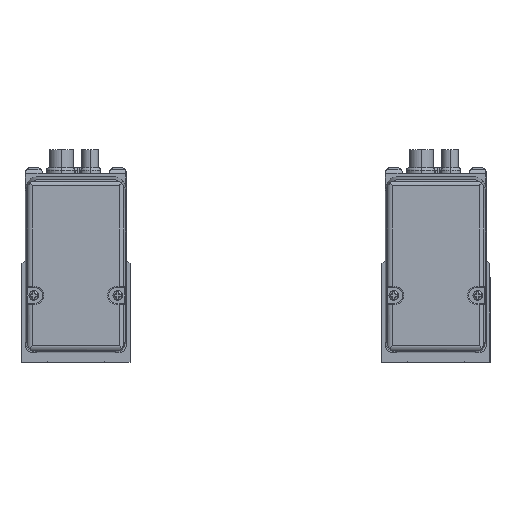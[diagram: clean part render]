
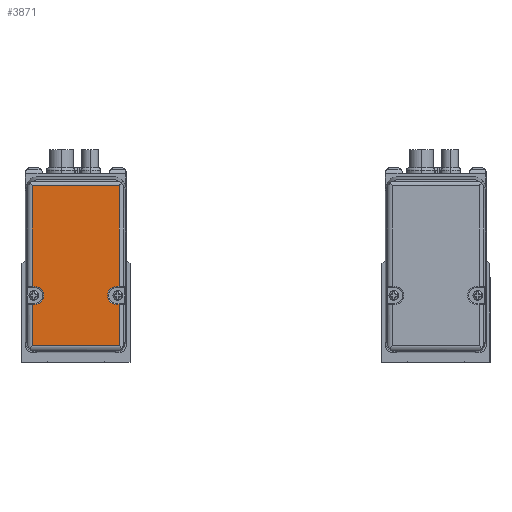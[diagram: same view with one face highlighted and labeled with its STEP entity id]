
A CAD part, left-side view. The second image highlights one B-rep face of the part: STEP entity #3871.
In plain terms, the highlighted planar face has unit normal (-1, 0, 0).
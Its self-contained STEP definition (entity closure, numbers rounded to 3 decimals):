
#3871=ADVANCED_FACE('',(#9068),#9069,.F.);
#9068=FACE_OUTER_BOUND('',#15929,.T.);
#9069=PLANE('',#15930);
#15929=EDGE_LOOP('',(#27042,#27043,#27044,#27045,#27046,#27047,#27048,#27049,#27050,#27051,#27052,#27053,#27054,#27055,#27056,#27057));
#15930=AXIS2_PLACEMENT_3D('',#27058,#27059,#27060);
#27042=ORIENTED_EDGE('',*,*,#44082,.F.);
#27043=ORIENTED_EDGE('',*,*,#43464,.F.);
#27044=ORIENTED_EDGE('',*,*,#41115,.F.);
#27045=ORIENTED_EDGE('',*,*,#44083,.F.);
#27046=ORIENTED_EDGE('',*,*,#44084,.F.);
#27047=ORIENTED_EDGE('',*,*,#44085,.F.);
#27048=ORIENTED_EDGE('',*,*,#40689,.F.);
#27049=ORIENTED_EDGE('',*,*,#44086,.F.);
#27050=ORIENTED_EDGE('',*,*,#44087,.F.);
#27051=ORIENTED_EDGE('',*,*,#44088,.F.);
#27052=ORIENTED_EDGE('',*,*,#44089,.F.);
#27053=ORIENTED_EDGE('',*,*,#41980,.F.);
#27054=ORIENTED_EDGE('',*,*,#42687,.F.);
#27055=ORIENTED_EDGE('',*,*,#44090,.F.);
#27056=ORIENTED_EDGE('',*,*,#41690,.F.);
#27057=ORIENTED_EDGE('',*,*,#44091,.F.);
#27058=CARTESIAN_POINT('',(1477.5,175.0,20.));
#27059=DIRECTION('',(1.0,0.0,0.0));
#27060=DIRECTION('',(0.0,1.0,0.0));
#40689=EDGE_CURVE('',#48774,#48776,#48777,.T.);
#41115=EDGE_CURVE('',#49535,#49536,#49537,.T.);
#41690=EDGE_CURVE('',#50534,#50536,#50537,.T.);
#41980=EDGE_CURVE('',#51041,#51043,#51044,.T.);
#42687=EDGE_CURVE('',#52197,#51041,#52199,.T.);
#43464=EDGE_CURVE('',#49536,#53443,#53444,.T.);
#44082=EDGE_CURVE('',#53443,#54364,#54365,.T.);
#44083=EDGE_CURVE('',#54366,#49535,#54367,.T.);
#44084=EDGE_CURVE('',#54368,#54366,#54369,.T.);
#44085=EDGE_CURVE('',#48776,#54368,#54370,.T.);
#44086=EDGE_CURVE('',#54371,#48774,#54372,.T.);
#44087=EDGE_CURVE('',#54373,#54371,#54374,.T.);
#44088=EDGE_CURVE('',#54375,#54373,#54376,.T.);
#44089=EDGE_CURVE('',#51043,#54375,#54377,.T.);
#44090=EDGE_CURVE('',#50536,#52197,#54378,.T.);
#44091=EDGE_CURVE('',#54364,#50534,#54379,.T.);
#48774=VERTEX_POINT('',#60462);
#48776=VERTEX_POINT('',#60464);
#48777=LINE('',#60465,#60466);
#49535=VERTEX_POINT('',#61558);
#49536=VERTEX_POINT('',#61559);
#49537=CIRCLE('',#61560,3.75);
#50534=VERTEX_POINT('',#63000);
#50536=VERTEX_POINT('',#63002);
#50537=LINE('',#63003,#63004);
#51041=VERTEX_POINT('',#63717);
#51043=VERTEX_POINT('',#63719);
#51044=LINE('',#63720,#63721);
#52197=VERTEX_POINT('',#65470);
#52199=LINE('',#65472,#65473);
#53443=VERTEX_POINT('',#67211);
#53444=LINE('',#67212,#67213);
#54364=VERTEX_POINT('',#68604);
#54365=LINE('',#68605,#68606);
#54366=VERTEX_POINT('',#68607);
#54367=LINE('',#68608,#68609);
#54368=VERTEX_POINT('',#68610);
#54369=LINE('',#68611,#68612);
#54370=LINE('',#68613,#68614);
#54371=VERTEX_POINT('',#68615);
#54372=LINE('',#68616,#68617);
#54373=VERTEX_POINT('',#68618);
#54374=LINE('',#68619,#68620);
#54375=VERTEX_POINT('',#68621);
#54376=LINE('',#68622,#68623);
#54377=CIRCLE('',#68624,3.75);
#54378=LINE('',#68625,#68626);
#54379=LINE('',#68627,#68628);
#60462=CARTESIAN_POINT('',(1477.5,156.836,-15.664));
#60464=CARTESIAN_POINT('',(1477.5,193.164,-15.664));
#60465=CARTESIAN_POINT('',(1477.5,175.0,-15.664));
#60466=VECTOR('',#76599,1.0);
#61558=CARTESIAN_POINT('',(1477.5,191.995,1.55));
#61559=CARTESIAN_POINT('',(1477.5,191.995,9.05));
#61560=AXIS2_PLACEMENT_3D('',#77165,#77166,#77167);
#63000=CARTESIAN_POINT('',(1477.5,193.164,51.065));
#63002=CARTESIAN_POINT('',(1477.5,156.836,51.065));
#63003=CARTESIAN_POINT('',(1477.5,175.0,51.065));
#63004=VECTOR('',#77874,1.0);
#63717=CARTESIAN_POINT('',(1477.5,158.005,9.05));
#63719=CARTESIAN_POINT('',(1477.5,158.005,9.05));
#63720=CARTESIAN_POINT('',(1477.5,158.005,12.65));
#63721=VECTOR('',#78239,1.0);
#65470=CARTESIAN_POINT('',(1477.5,156.836,9.05));
#65472=CARTESIAN_POINT('',(1477.5,175.0,9.05));
#65473=VECTOR('',#79128,0.5);
#67211=CARTESIAN_POINT('',(1477.5,191.995,9.05));
#67212=CARTESIAN_POINT('',(1477.5,191.995,12.65));
#67213=VECTOR('',#80089,1.0);
#68604=CARTESIAN_POINT('',(1477.5,193.164,9.05));
#68605=CARTESIAN_POINT('',(1477.5,175.0,9.05));
#68606=VECTOR('',#80872,0.5);
#68607=CARTESIAN_POINT('',(1477.5,191.995,1.55));
#68608=CARTESIAN_POINT('',(1477.5,191.995,12.65));
#68609=VECTOR('',#80873,1.0);
#68610=CARTESIAN_POINT('',(1477.5,193.164,1.55));
#68611=CARTESIAN_POINT('',(1477.5,175.0,1.55));
#68612=VECTOR('',#80874,0.5);
#68613=CARTESIAN_POINT('',(1477.5,193.164,21.25));
#68614=VECTOR('',#80875,1.0);
#68615=CARTESIAN_POINT('',(1477.5,156.836,1.55));
#68616=CARTESIAN_POINT('',(1477.5,156.836,21.25));
#68617=VECTOR('',#80876,1.0);
#68618=CARTESIAN_POINT('',(1477.5,158.005,1.55));
#68619=CARTESIAN_POINT('',(1477.5,175.0,1.55));
#68620=VECTOR('',#80877,0.5);
#68621=CARTESIAN_POINT('',(1477.5,158.005,1.55));
#68622=CARTESIAN_POINT('',(1477.5,158.005,12.65));
#68623=VECTOR('',#80878,1.0);
#68624=AXIS2_PLACEMENT_3D('',#80879,#80880,#80881);
#68625=CARTESIAN_POINT('',(1477.5,156.836,21.25));
#68626=VECTOR('',#80882,1.0);
#68627=CARTESIAN_POINT('',(1477.5,193.164,21.25));
#68628=VECTOR('',#80883,1.0);
#76599=DIRECTION('',(0.0,1.0,0.));
#77165=CARTESIAN_POINT('',(1477.5,192.0,5.3));
#77166=DIRECTION('',(-1.0,0.0,0.0));
#77167=DIRECTION('',(0.0,-1.0,0.));
#77874=DIRECTION('',(0.0,-1.0,0.));
#78239=DIRECTION('',(0.0,0.0,-1.0));
#79128=DIRECTION('',(0.0,1.0,0.));
#80089=DIRECTION('',(0.0,0.,1.0));
#80872=DIRECTION('',(0.0,1.0,0.));
#80873=DIRECTION('',(0.0,0.,1.0));
#80874=DIRECTION('',(0.0,-1.0,0.));
#80875=DIRECTION('',(0.0,0.0,1.0));
#80876=DIRECTION('',(-0.0,0.,-1.0));
#80877=DIRECTION('',(0.0,-1.0,0.));
#80878=DIRECTION('',(0.0,0.0,-1.0));
#80879=CARTESIAN_POINT('',(1477.5,158.0,5.3));
#80880=DIRECTION('',(-1.0,0.0,0.0));
#80881=DIRECTION('',(0.0,1.0,0.0));
#80882=DIRECTION('',(-0.0,0.,-1.0));
#80883=DIRECTION('',(0.0,0.0,1.0));
